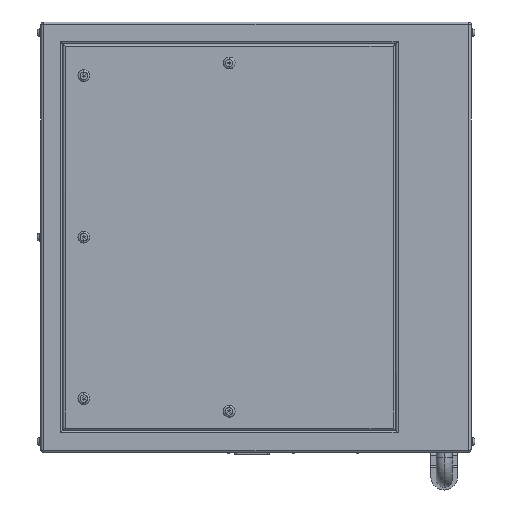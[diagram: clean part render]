
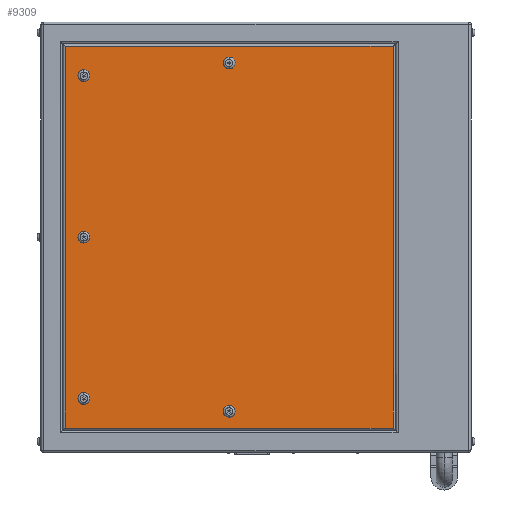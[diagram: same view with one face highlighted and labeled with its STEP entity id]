
A CAD part, left-side view. The second image highlights one B-rep face of the part: STEP entity #9309.
In plain terms, the highlighted planar face has unit normal (-1, 0, 0).
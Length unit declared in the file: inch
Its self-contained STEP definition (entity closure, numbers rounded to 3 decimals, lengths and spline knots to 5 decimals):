
#537 = DIRECTION ( 'NONE',  ( 1., 0., 0. ) ) ;
#626 = ORIENTED_EDGE ( 'NONE', *, *, #13415, .T. ) ;
#1032 = EDGE_LOOP ( 'NONE', ( #1211, #20115 ) ) ;
#1074 = CARTESIAN_POINT ( 'NONE',  ( -11., -12.74, -17.74 ) ) ;
#1211 = ORIENTED_EDGE ( 'NONE', *, *, #6716, .T. ) ;
#1219 = DIRECTION ( 'NONE',  ( 1., 0., 0. ) ) ;
#1295 = EDGE_CURVE ( 'NONE', #14268, #19230, #8772, .T. ) ;
#1379 = AXIS2_PLACEMENT_3D ( 'NONE', #21619, #10512, #17817 ) ;
#1448 = VERTEX_POINT ( 'NONE', #13215 ) ;
#2175 = ORIENTED_EDGE ( 'NONE', *, *, #12685, .T. ) ;
#2407 = CIRCLE ( 'NONE', #18363, 0.55 ) ;
#3167 = DIRECTION ( 'NONE',  ( 1., 0., 0. ) ) ;
#3355 = CARTESIAN_POINT ( 'NONE',  ( -11., 2.5, -16.74 ) ) ;
#3561 = CARTESIAN_POINT ( 'NONE',  ( -11., 17.74, -17.74 ) ) ;
#3866 = VECTOR ( 'NONE', #16578, 39.37008 ) ;
#4179 = CIRCLE ( 'NONE', #10231, 0.55 ) ;
#4498 = AXIS2_PLACEMENT_3D ( 'NONE', #9950, #17259, #18684 ) ;
#4617 = VERTEX_POINT ( 'NONE', #1074 ) ;
#4918 = AXIS2_PLACEMENT_3D ( 'NONE', #22869, #1219, #6548 ) ;
#4949 = EDGE_CURVE ( 'NONE', #7840, #23124, #23048, .T. ) ;
#4991 = CARTESIAN_POINT ( 'NONE',  ( -11., -12.74, 17.74 ) ) ;
#5147 = DIRECTION ( 'NONE',  ( 1., 0., 0. ) ) ;
#5638 = CIRCLE ( 'NONE', #4498, 0.55 ) ;
#5877 = CARTESIAN_POINT ( 'NONE',  ( -11., 20., -20. ) ) ;
#5990 = DIRECTION ( 'NONE',  ( 1., 0., 0. ) ) ;
#6124 = EDGE_LOOP ( 'NONE', ( #20870, #11264 ) ) ;
#6391 = CARTESIAN_POINT ( 'NONE',  ( -11., 16., -0.55 ) ) ;
#6548 = DIRECTION ( 'NONE',  ( 0., 0., -1. ) ) ;
#6627 = VERTEX_POINT ( 'NONE', #23302 ) ;
#6715 = VERTEX_POINT ( 'NONE', #12208 ) ;
#6716 = EDGE_CURVE ( 'NONE', #15195, #1448, #11576, .T. ) ;
#6792 = CARTESIAN_POINT ( 'NONE',  ( -11., -12.74, -20. ) ) ;
#7448 = EDGE_LOOP ( 'NONE', ( #7455, #19807 ) ) ;
#7455 = ORIENTED_EDGE ( 'NONE', *, *, #14255, .T. ) ;
#7621 = AXIS2_PLACEMENT_3D ( 'NONE', #10723, #5147, #16252 ) ;
#7792 = FACE_BOUND ( 'NONE', #21020, .T. ) ;
#7840 = VERTEX_POINT ( 'NONE', #20448 ) ;
#8215 = EDGE_CURVE ( 'NONE', #19230, #14268, #13071, .T. ) ;
#8331 = CIRCLE ( 'NONE', #4918, 0.55 ) ;
#8585 = LINE ( 'NONE', #6792, #12261 ) ;
#8687 = EDGE_CURVE ( 'NONE', #6627, #9071, #8331, .T. ) ;
#8772 = CIRCLE ( 'NONE', #15657, 0.55 ) ;
#9042 = ORIENTED_EDGE ( 'NONE', *, *, #18857, .T. ) ;
#9071 = VERTEX_POINT ( 'NONE', #21057 ) ;
#9309 = ADVANCED_FACE ( 'NONE', ( #21976, #7792, #12914, #19975, #15075, #11101 ), #20201, .F. ) ;
#9584 = VECTOR ( 'NONE', #23310, 39.37008 ) ;
#9950 = CARTESIAN_POINT ( 'NONE',  ( -11., 16., 15. ) ) ;
#9965 = EDGE_CURVE ( 'NONE', #6715, #17618, #4179, .T. ) ;
#10231 = AXIS2_PLACEMENT_3D ( 'NONE', #16519, #5990, #16737 ) ;
#10512 = DIRECTION ( 'NONE',  ( 1., 0., 0. ) ) ;
#10589 = EDGE_LOOP ( 'NONE', ( #14544, #13694, #2175, #9042 ) ) ;
#10723 = CARTESIAN_POINT ( 'NONE',  ( -11., 16., -15. ) ) ;
#10786 = EDGE_CURVE ( 'NONE', #1448, #15195, #20957, .T. ) ;
#11049 = CARTESIAN_POINT ( 'NONE',  ( -11., 16., 15.55 ) ) ;
#11101 = FACE_OUTER_BOUND ( 'NONE', #10589, .T. ) ;
#11211 = CARTESIAN_POINT ( 'NONE',  ( -11., 2.5, -16.19 ) ) ;
#11264 = ORIENTED_EDGE ( 'NONE', *, *, #1295, .T. ) ;
#11419 = CARTESIAN_POINT ( 'NONE',  ( -11., 16., -15.55 ) ) ;
#11449 = DIRECTION ( 'NONE',  ( 1., 0., 0. ) ) ;
#11576 = CIRCLE ( 'NONE', #1379, 0.55 ) ;
#11777 = CARTESIAN_POINT ( 'NONE',  ( -11., 2.5, 16.19 ) ) ;
#12038 = VERTEX_POINT ( 'NONE', #4991 ) ;
#12208 = CARTESIAN_POINT ( 'NONE',  ( -11., 16., 14.45 ) ) ;
#12261 = VECTOR ( 'NONE', #13976, 39.37008 ) ;
#12598 = ORIENTED_EDGE ( 'NONE', *, *, #9965, .T. ) ;
#12685 = EDGE_CURVE ( 'NONE', #12038, #16398, #22037, .T. ) ;
#12914 = FACE_BOUND ( 'NONE', #1032, .T. ) ;
#13071 = CIRCLE ( 'NONE', #16878, 0.55 ) ;
#13100 = DIRECTION ( 'NONE',  ( 0., 0., -1. ) ) ;
#13154 = DIRECTION ( 'NONE',  ( 1., 0., 0. ) ) ;
#13215 = CARTESIAN_POINT ( 'NONE',  ( -11., 16., -14.45 ) ) ;
#13242 = DIRECTION ( 'NONE',  ( 0., 0., 1. ) ) ;
#13415 = EDGE_CURVE ( 'NONE', #9071, #6627, #2407, .T. ) ;
#13555 = ORIENTED_EDGE ( 'NONE', *, *, #20118, .T. ) ;
#13694 = ORIENTED_EDGE ( 'NONE', *, *, #18525, .T. ) ;
#13758 = CARTESIAN_POINT ( 'NONE',  ( -11., 16., 0. ) ) ;
#13976 = DIRECTION ( 'NONE',  ( 0., 0., 1. ) ) ;
#14255 = EDGE_CURVE ( 'NONE', #23124, #7840, #21538, .T. ) ;
#14268 = VERTEX_POINT ( 'NONE', #20661 ) ;
#14308 = AXIS2_PLACEMENT_3D ( 'NONE', #11211, #11449, #13242 ) ;
#14368 = LINE ( 'NONE', #21414, #9584 ) ;
#14435 = VECTOR ( 'NONE', #13100, 39.37008 ) ;
#14544 = ORIENTED_EDGE ( 'NONE', *, *, #22296, .T. ) ;
#14670 = AXIS2_PLACEMENT_3D ( 'NONE', #23067, #23298, #23172 ) ;
#14881 = EDGE_LOOP ( 'NONE', ( #12598, #13555 ) ) ;
#15075 = FACE_BOUND ( 'NONE', #14881, .T. ) ;
#15082 = CARTESIAN_POINT ( 'NONE',  ( -11., 16., 0. ) ) ;
#15195 = VERTEX_POINT ( 'NONE', #11419 ) ;
#15254 = DIRECTION ( 'NONE',  ( 0., 0., -1. ) ) ;
#15657 = AXIS2_PLACEMENT_3D ( 'NONE', #15082, #22339, #17094 ) ;
#16252 = DIRECTION ( 'NONE',  ( 0., 0., -1. ) ) ;
#16398 = VERTEX_POINT ( 'NONE', #21391 ) ;
#16519 = CARTESIAN_POINT ( 'NONE',  ( -11., 16., 15. ) ) ;
#16578 = DIRECTION ( 'NONE',  ( 0., 1., 0. ) ) ;
#16737 = DIRECTION ( 'NONE',  ( 0., 0., -1. ) ) ;
#16878 = AXIS2_PLACEMENT_3D ( 'NONE', #13758, #3167, #23052 ) ;
#17015 = VERTEX_POINT ( 'NONE', #3561 ) ;
#17094 = DIRECTION ( 'NONE',  ( 0., 0., -1. ) ) ;
#17259 = DIRECTION ( 'NONE',  ( 1., 0., 0. ) ) ;
#17618 = VERTEX_POINT ( 'NONE', #11049 ) ;
#17817 = DIRECTION ( 'NONE',  ( 0., 0., -1. ) ) ;
#18032 = ORIENTED_EDGE ( 'NONE', *, *, #8687, .T. ) ;
#18363 = AXIS2_PLACEMENT_3D ( 'NONE', #11777, #537, #15254 ) ;
#18525 = EDGE_CURVE ( 'NONE', #4617, #12038, #8585, .T. ) ;
#18586 = LINE ( 'NONE', #22165, #14435 ) ;
#18684 = DIRECTION ( 'NONE',  ( 0., 0., -1. ) ) ;
#18844 = CARTESIAN_POINT ( 'NONE',  ( -11., 20., 17.74 ) ) ;
#18857 = EDGE_CURVE ( 'NONE', #16398, #17015, #18586, .T. ) ;
#19230 = VERTEX_POINT ( 'NONE', #6391 ) ;
#19807 = ORIENTED_EDGE ( 'NONE', *, *, #4949, .T. ) ;
#19975 = FACE_BOUND ( 'NONE', #6124, .T. ) ;
#20115 = ORIENTED_EDGE ( 'NONE', *, *, #10786, .T. ) ;
#20118 = EDGE_CURVE ( 'NONE', #17618, #6715, #5638, .T. ) ;
#20201 = PLANE ( 'NONE',  #20945 ) ;
#20436 = DIRECTION ( 'NONE',  ( 0., 0., -1. ) ) ;
#20448 = CARTESIAN_POINT ( 'NONE',  ( -11., 2.5, -15.64 ) ) ;
#20661 = CARTESIAN_POINT ( 'NONE',  ( -11., 16., 0.55 ) ) ;
#20870 = ORIENTED_EDGE ( 'NONE', *, *, #8215, .T. ) ;
#20945 = AXIS2_PLACEMENT_3D ( 'NONE', #5877, #13154, #20436 ) ;
#20957 = CIRCLE ( 'NONE', #7621, 0.55 ) ;
#21020 = EDGE_LOOP ( 'NONE', ( #626, #18032 ) ) ;
#21057 = CARTESIAN_POINT ( 'NONE',  ( -11., 2.5, 15.64 ) ) ;
#21391 = CARTESIAN_POINT ( 'NONE',  ( -11., 17.74, 17.74 ) ) ;
#21414 = CARTESIAN_POINT ( 'NONE',  ( -11., 20., -17.74 ) ) ;
#21538 = CIRCLE ( 'NONE', #14308, 0.55 ) ;
#21619 = CARTESIAN_POINT ( 'NONE',  ( -11., 16., -15. ) ) ;
#21976 = FACE_BOUND ( 'NONE', #7448, .T. ) ;
#22037 = LINE ( 'NONE', #18844, #3866 ) ;
#22165 = CARTESIAN_POINT ( 'NONE',  ( -11., 17.74, -20. ) ) ;
#22296 = EDGE_CURVE ( 'NONE', #17015, #4617, #14368, .T. ) ;
#22339 = DIRECTION ( 'NONE',  ( 1., 0., 0. ) ) ;
#22869 = CARTESIAN_POINT ( 'NONE',  ( -11., 2.5, 16.19 ) ) ;
#23048 = CIRCLE ( 'NONE', #14670, 0.55 ) ;
#23052 = DIRECTION ( 'NONE',  ( 0., 0., -1. ) ) ;
#23067 = CARTESIAN_POINT ( 'NONE',  ( -11., 2.5, -16.19 ) ) ;
#23124 = VERTEX_POINT ( 'NONE', #3355 ) ;
#23172 = DIRECTION ( 'NONE',  ( 0., 0., 1. ) ) ;
#23298 = DIRECTION ( 'NONE',  ( 1., 0., 0. ) ) ;
#23302 = CARTESIAN_POINT ( 'NONE',  ( -11., 2.5, 16.74 ) ) ;
#23310 = DIRECTION ( 'NONE',  ( 0., -1., 0. ) ) ;
